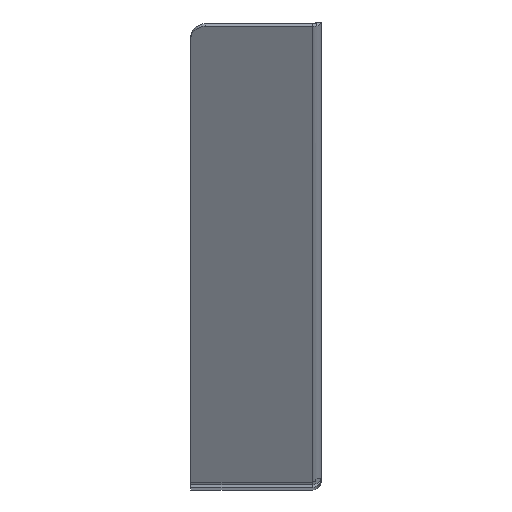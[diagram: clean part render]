
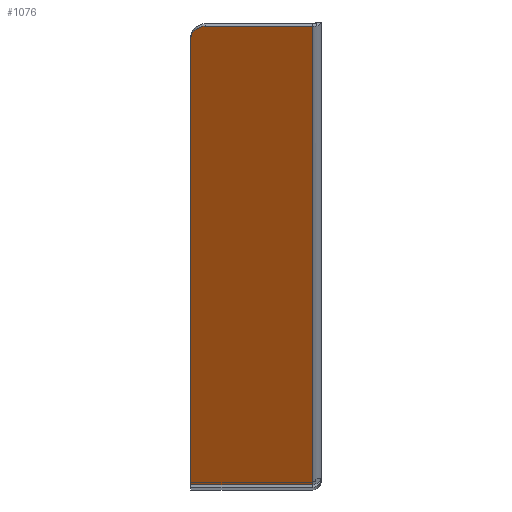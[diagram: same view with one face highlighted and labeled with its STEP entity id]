
A CAD part, top view. The second image highlights one B-rep face of the part: STEP entity #1076.
In plain terms, the highlighted planar face has unit normal (0, -0.5, 0.866).
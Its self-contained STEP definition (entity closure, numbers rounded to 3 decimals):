
#116=CARTESIAN_POINT('',(-15.3,60.668,144.539));
#117=DIRECTION('',(0.,-0.5,0.866));
#118=DIRECTION('',(0.,0.866,0.5));
#119=AXIS2_PLACEMENT_3D('',#116,#117,#118);
#121=DIRECTION('',(0.,-0.866,-0.5));
#122=VECTOR('',#121,73.035);
#123=CARTESIAN_POINT('',(-0.5,62.4,145.539));
#124=LINE('',#123,#122);
#125=DIRECTION('',(-1.,0.,0.));
#126=VECTOR('',#125,16.8);
#127=CARTESIAN_POINT('',(-0.5,-0.85,109.022));
#128=LINE('',#127,#126);
#137=DIRECTION('',(-1.,0.,0.));
#138=VECTOR('',#137,14.8);
#139=CARTESIAN_POINT('',(-0.5,62.4,145.539));
#140=LINE('',#139,#138);
#336=DIRECTION('',(0.,-0.866,-0.5));
#337=VECTOR('',#336,71.035);
#338=CARTESIAN_POINT('',(-17.3,60.668,144.539));
#339=LINE('',#338,#337);
#717=CARTESIAN_POINT('',(-0.5,62.4,145.539));
#718=VERTEX_POINT('',#717);
#729=CARTESIAN_POINT('',(-0.5,-0.85,109.022));
#730=CARTESIAN_POINT('',(-17.3,-0.85,109.022));
#731=VERTEX_POINT('',#729);
#732=VERTEX_POINT('',#730);
#733=CARTESIAN_POINT('',(-15.3,62.4,145.539));
#734=CARTESIAN_POINT('',(-17.3,60.668,144.539));
#735=VERTEX_POINT('',#733);
#736=VERTEX_POINT('',#734);
#1060=CARTESIAN_POINT('',(-0.5,-0.6,109.166));
#1061=DIRECTION('',(0.,0.5,-0.866));
#1062=DIRECTION('',(-1.,0.,0.));
#1063=AXIS2_PLACEMENT_3D('',#1060,#1061,#1062);
#1064=PLANE('',#1063);
#1065=ORIENTED_EDGE('',*,*,#1050,.F.);
#1067=ORIENTED_EDGE('',*,*,#1066,.F.);
#1069=ORIENTED_EDGE('',*,*,#1068,.T.);
#1071=ORIENTED_EDGE('',*,*,#1070,.T.);
#1073=ORIENTED_EDGE('',*,*,#1072,.F.);
#1074=EDGE_LOOP('',(#1065,#1067,#1069,#1071,#1073));
#1075=FACE_OUTER_BOUND('',#1074,.F.);
#1076=ADVANCED_FACE('',(#1075),#1064,.F.);
#120=CIRCLE('',#119,2.);
#1050=EDGE_CURVE('',#735,#736,#120,.T.);
#1066=EDGE_CURVE('',#718,#735,#140,.T.);
#1068=EDGE_CURVE('',#718,#731,#124,.T.);
#1070=EDGE_CURVE('',#731,#732,#128,.T.);
#1072=EDGE_CURVE('',#736,#732,#339,.T.);
